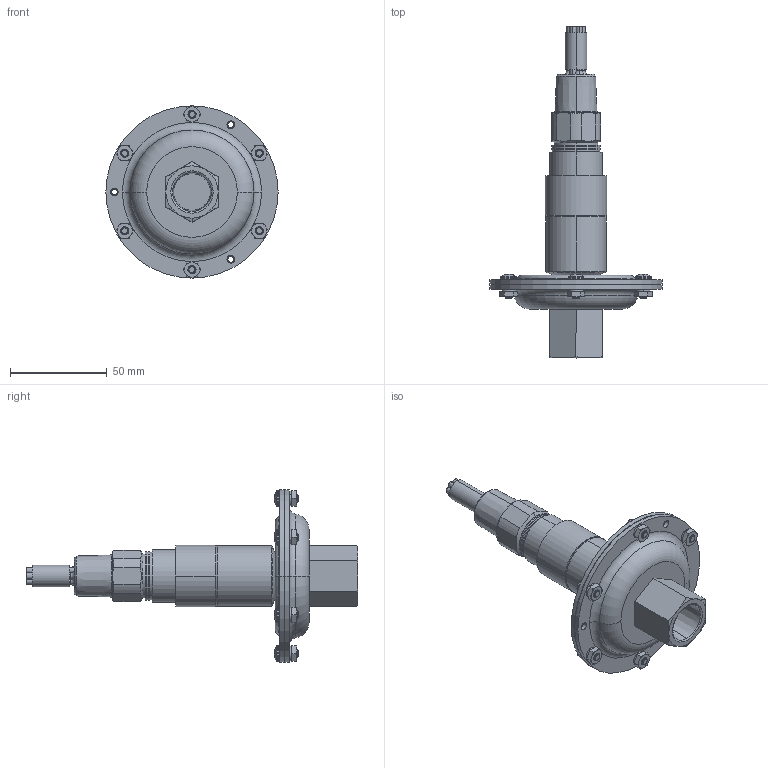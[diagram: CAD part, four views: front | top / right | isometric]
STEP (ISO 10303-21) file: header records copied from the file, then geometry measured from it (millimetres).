
FILE_DESCRIPTION (( 'STEP AP214' ), '1' );
FILE_NAME ('12SXXNW_3_4.STEP', '2025-04-02T16:58:43', ( '' ), ( '' ), 'SwSTEP 2.0', 'SolidWorks 2023', '' );
FILE_SCHEMA (( 'AUTOMOTIVE_DESIGN' ));
Length unit declared in the file: inch
Products named in the file (1): 12SXXNW_3_4
Bounding box: 88.9 x 171.3 x 88.9 mm (x, y, z)
Surface area: 50865.1 mm2 (no closed solid volume)
Topology: 0 solids, 37 shells, 605 faces, 1900 edges, 1311 vertices
Faces by surface type: cylinder 211, plane 184, cone 140, torus 48, sphere 12, bspline 10
Entity records: 26305 total; most frequent: CARTESIAN_POINT 10734, DIRECTION 3197, ORIENTED_EDGE 3036, EDGE_CURVE 1900, AXIS2_PLACEMENT_3D 1326, VERTEX_POINT 1311, CIRCLE 730, EDGE_LOOP 688
